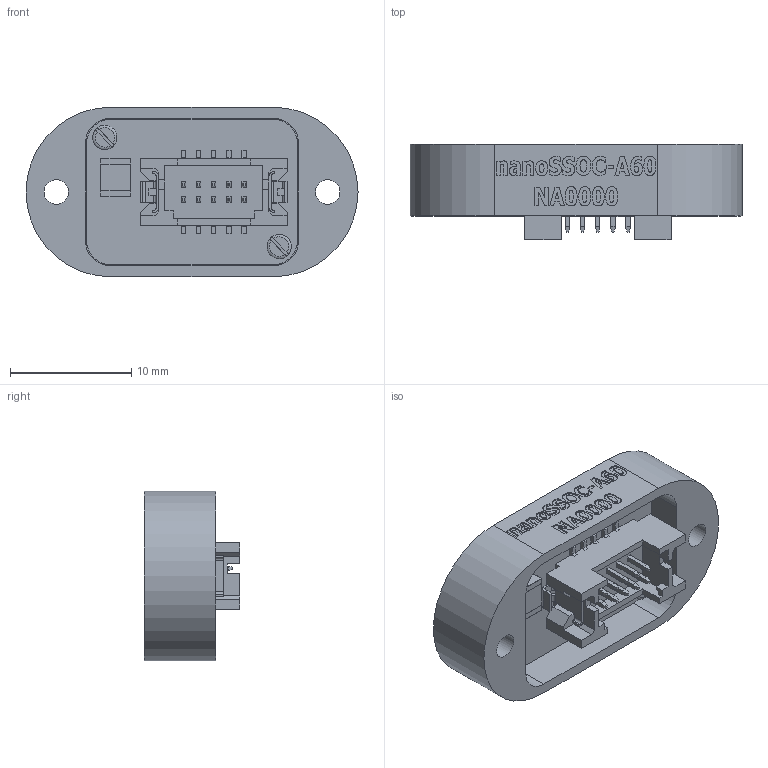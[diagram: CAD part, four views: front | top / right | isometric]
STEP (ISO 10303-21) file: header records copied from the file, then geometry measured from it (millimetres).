
FILE_DESCRIPTION(/* description */ (''),/* implementation_level */ '2;1');
FILE_NAME(/* name */ 'C:\Users\Isaac Fdez\Solar MEMS Technologies\SMT servidor - Gestión de Productos\ESPACIO\nanoSSOC\A60\Hardware\Mecánica\1.0\NA60-02-CAD-102 Mechanical CAD.stp',/* time_stamp */ '2020-10-16T09:47:50+02:00',/* author */ ('Isaac Fdez'),/* organization */ (''),/* preprocessor_version */ 'ST-DEVELOPER v16.5',/* originating_system */ 'Autodesk Inventor 2017',/* authorisation */ '');
FILE_SCHEMA (('AUTOMOTIVE_DESIGN { 1 0 10303 214 3 1 1 }'));
Length unit declared in the file: millimetre
Products named in the file (6): Ensamblaje nanoSSOC-A60; nanoSSOC-D60 caja; DIN84_M1x3; DF13A-10DP-1.25VŠÈ—ª; CAP1210; nanoSSOC-A60 caja
Assembly tree (6 placements, depth 2):
  Ensamblaje nanoSSOC-A60
    nanoSSOC-D60 caja
    DIN84_M1x3  x2
    DF13A-10DP-1.25VŠÈ—ª
    CAP1210
    nanoSSOC-A60 caja
Bounding box: 27.4 x 7.85 x 14 mm (x, y, z)
Volume: 1294.4 mm3; surface area: 2481.6 mm2
Topology: 6 solids, 46 shells, 1023 faces, 2905 edges, 1932 vertices
Faces by surface type: plane 665, bspline 172, cylinder 100, cone 50, torus 28, sphere 8
Full cylindrical faces by diameter (mm): 0.729 x2, 1 x22, 1.1 x2, 2 x2, 2.013 x2
Entity records: 32108 total; most frequent: CARTESIAN_POINT 7652, ORIENTED_EDGE 5166, DIRECTION 4157, EDGE_CURVE 2647, LINE 2059, VECTOR 2059, VERTEX_POINT 1792, EDGE_LOOP 1085
